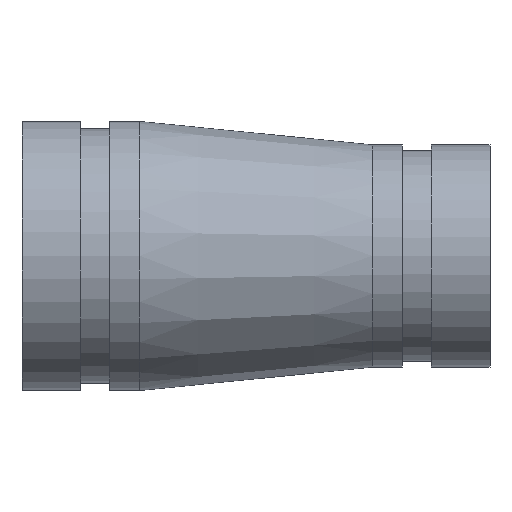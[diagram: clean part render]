
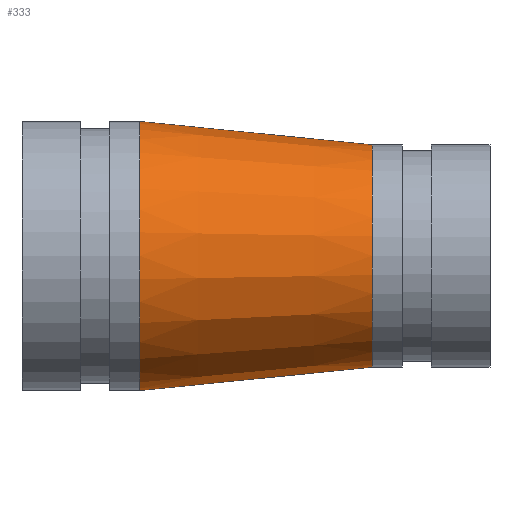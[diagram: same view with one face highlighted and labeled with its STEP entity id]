
A CAD part, top view. The second image highlights one B-rep face of the part: STEP entity #333.
In plain terms, the highlighted conical face has half-angle 5.756 degrees and reference radius 33.337 mm.
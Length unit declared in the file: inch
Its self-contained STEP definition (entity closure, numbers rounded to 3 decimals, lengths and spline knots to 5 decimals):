
#65=FACE_OUTER_BOUND('',#81,.T.);
#81=EDGE_LOOP('',(#229,#230,#231,#232,#233,#234));
#103=LINE('',#571,#113);
#113=VECTOR('',#438,1.3125);
#123=CIRCLE('',#370,1.1875);
#124=CIRCLE('',#371,1.1875);
#125=CIRCLE('',#372,1.4375);
#126=CIRCLE('',#373,1.4375);
#155=VERTEX_POINT('',#566);
#156=VERTEX_POINT('',#567);
#157=VERTEX_POINT('',#570);
#158=VERTEX_POINT('',#572);
#187=EDGE_CURVE('',#155,#156,#123,.T.);
#188=EDGE_CURVE('',#156,#155,#124,.T.);
#189=EDGE_CURVE('',#156,#157,#103,.T.);
#190=EDGE_CURVE('',#157,#158,#125,.T.);
#191=EDGE_CURVE('',#158,#157,#126,.T.);
#229=ORIENTED_EDGE('',*,*,#187,.F.);
#230=ORIENTED_EDGE('',*,*,#188,.F.);
#231=ORIENTED_EDGE('',*,*,#189,.T.);
#232=ORIENTED_EDGE('',*,*,#190,.T.);
#233=ORIENTED_EDGE('',*,*,#191,.T.);
#234=ORIENTED_EDGE('',*,*,#189,.F.);
#313=CONICAL_SURFACE('',#369,1.3125,0.1);
#333=ADVANCED_FACE('',(#65),#313,.T.);
#369=AXIS2_PLACEMENT_3D('',#565,#432,#433);
#370=AXIS2_PLACEMENT_3D('',#568,#434,#435);
#371=AXIS2_PLACEMENT_3D('',#569,#436,#437);
#372=AXIS2_PLACEMENT_3D('',#573,#439,#440);
#373=AXIS2_PLACEMENT_3D('',#574,#441,#442);
#432=DIRECTION('center_axis',(-1.,0.,0.));
#433=DIRECTION('ref_axis',(0.,1.,0.));
#434=DIRECTION('center_axis',(1.,0.,0.));
#435=DIRECTION('ref_axis',(0.,1.,0.));
#436=DIRECTION('center_axis',(1.,0.,0.));
#437=DIRECTION('ref_axis',(0.,1.,0.));
#438=DIRECTION('',(-0.995,-0.1,0.));
#439=DIRECTION('center_axis',(1.,0.,0.));
#440=DIRECTION('ref_axis',(0.,1.,0.));
#441=DIRECTION('center_axis',(1.,0.,0.));
#442=DIRECTION('ref_axis',(0.,1.,0.));
#565=CARTESIAN_POINT('Origin',(2.5,0.,0.));
#566=CARTESIAN_POINT('',(3.74,1.1875,0.));
#567=CARTESIAN_POINT('',(3.74,-1.1875,0.));
#568=CARTESIAN_POINT('Origin',(3.74,0.,0.));
#569=CARTESIAN_POINT('Origin',(3.74,0.,0.));
#570=CARTESIAN_POINT('',(1.26,-1.4375,0.));
#571=CARTESIAN_POINT('',(2.5,-1.3125,0.));
#572=CARTESIAN_POINT('',(1.26,1.4375,0.));
#573=CARTESIAN_POINT('Origin',(1.26,0.,0.));
#574=CARTESIAN_POINT('Origin',(1.26,0.,0.));
